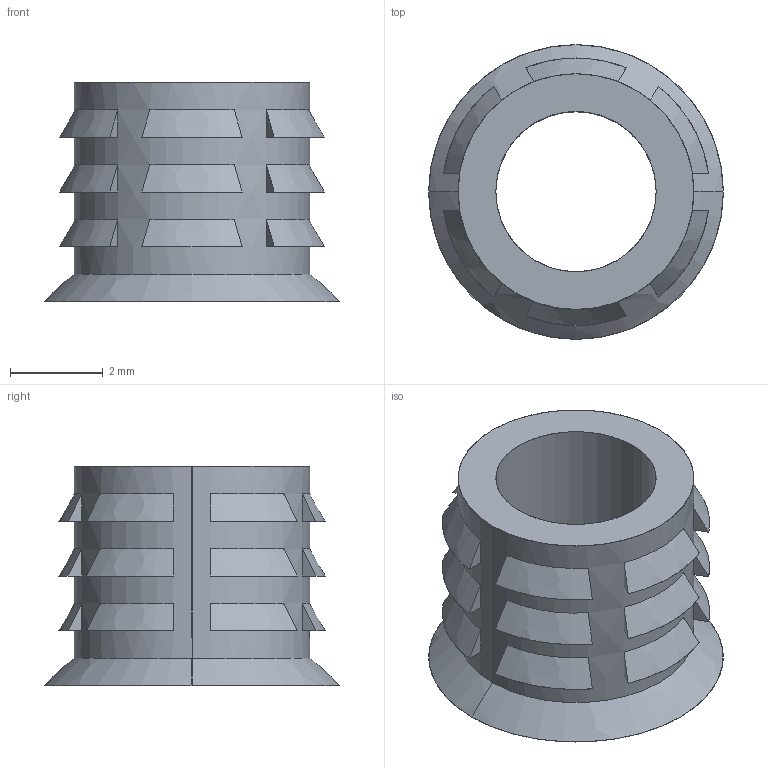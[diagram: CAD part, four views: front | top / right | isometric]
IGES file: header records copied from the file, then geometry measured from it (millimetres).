
Start section: SolidWorks IGES file using analytic representation for surfaces
Global section: file name: G:\thermofab project\INSERT\insert project\INSERT 3D\insert 8-32 S1.IGS; native system: SolidWorks 2015; preprocessor: SolidWorks 2015; author: Administrator; date: 170809.165106; units: millimetre
Bounding box: 6.35 x 6.35 x 4.72 mm (x, y, z)
Surface area: 185.8 mm2 (no closed solid volume)
Topology: 0 solids, 0 shells, 82 faces, 592 edges, 592 vertices
Faces by surface type: bspline 76, revolution 6
